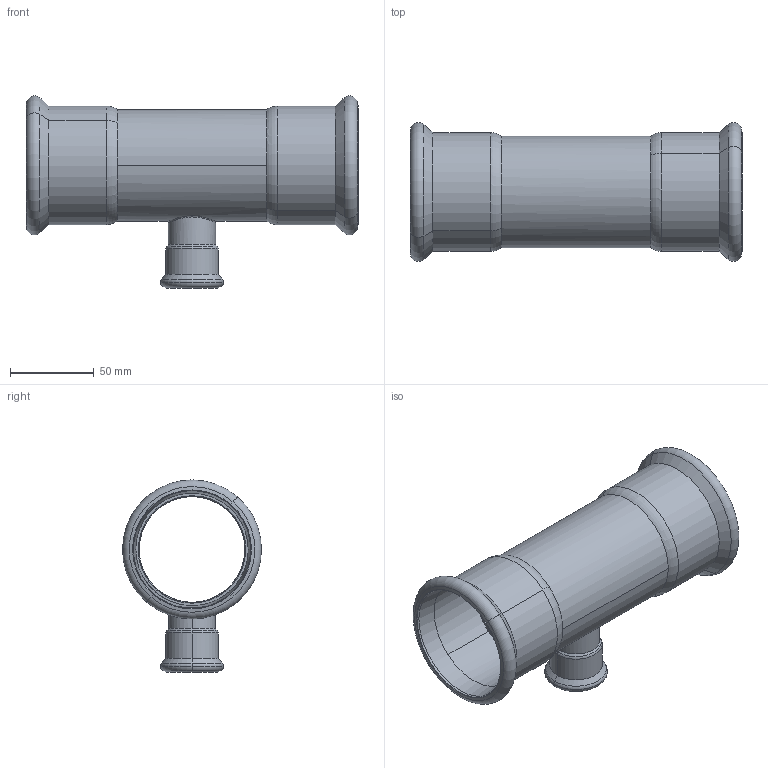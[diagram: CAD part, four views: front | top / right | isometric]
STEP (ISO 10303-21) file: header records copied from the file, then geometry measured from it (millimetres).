
FILE_DESCRIPTION(('CoCreate Modeling STEP Export'),'2;1');
FILE_NAME('C1415 67x28x67.stp','2014-10-23T15:57:26',(''),(''),'CoCreate Modeling STEP processor for AP214 (Solid Model)','CoCreate Modeling 17.00A 17-Jun-2010 (C) Parametric Technology GmbH','');
FILE_SCHEMA(('AUTOMOTIVE_DESIGN { 1 0 10303 214 1 1 1 1 }'));
Length unit declared in the file: millimetre
Products named in the file (2): TSTUK_67x28x67mm
Assembly tree (1 placements, depth 2):
  TSTUK_67x28x67mm
    TSTUK_67x28x67mm
Bounding box: 198.08 x 82.91 x 114.61 mm (x, y, z)
Volume: 106895.9 mm3; surface area: 95919.9 mm2
Topology: 1 solids, 1 shells, 97 faces, 224 edges, 132 vertices
Faces by surface type: cylinder 32, cone 32, torus 24, plane 5, bspline 4
Entity records: 5494 total; most frequent: CARTESIAN_POINT 3658, ORIENTED_EDGE 448, DIRECTION 308, EDGE_CURVE 224, VERTEX_POINT 132, AXIS2_PLACEMENT_3D 122, EDGE_LOOP 104, FACE_OUTER_BOUND 97
